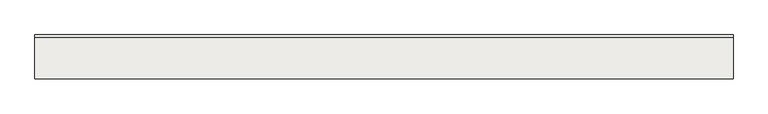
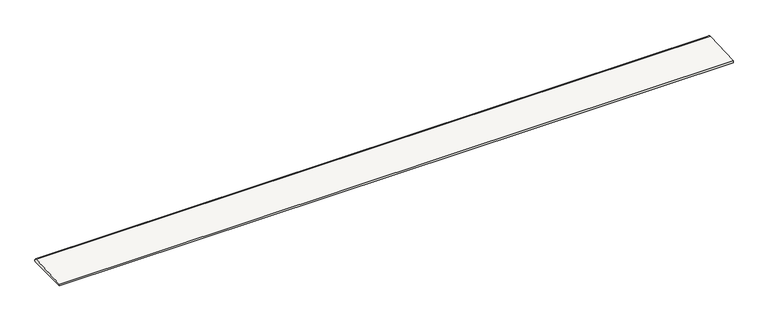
"""IFC4 building model written with IfcOpenShell, lengths in millimetres: slab geometry, ROSA GRES_S62 : Pieza S62_Serena_Griggio_Anti-Slip."""

import ifcopenshell
import ifcopenshell.guid

model = None  # the IFC model being written
_history = None  # IfcOwnerHistory: only IFC2X3 demands one
_inside = {}  # id of a spatial element -> (the spatial element, [elements in it])
_under = {}  # id of a project, library or spatial element -> (it, [spatial elements below it])
_declared = {}  # id of a project -> (the project, [libraries it declares])
_typed = {}  # id of a type object -> (the type object, [elements of that type])
_made_of = {}  # id of a material, layer set ... -> (it, [elements and type objects made of it])


def new_model(schema):
    """Start an empty IFC model of exactly this schema.

    Asked for "IFC4X3", IfcOpenShell would pick the latest addendum, in which some entities
    have other attributes; the version numbers below select the first issue.
    IFC2X3 requires an IfcOwnerHistory on every rooted entity: one is made here for all.
    """
    global model, _history
    if schema == "IFC4X3":
        model = ifcopenshell.file(schema_version=(4, 3, 0, 0))
    else:
        model = ifcopenshell.file(schema=schema)
    _inside.clear()
    _under.clear()
    _declared.clear()
    _typed.clear()
    _made_of.clear()
    _history = None
    if model.schema == "IFC2X3":
        org = make("IfcOrganization", Name="unknown")
        user = make(
            "IfcPersonAndOrganization",
            ThePerson=make("IfcPerson", FamilyName="unknown"),
            TheOrganization=org,
        )
        app = make(
            "IfcApplication",
            ApplicationDeveloper=org,
            Version="unknown",
            ApplicationFullName="unknown",
            ApplicationIdentifier="unknown",
        )
        _history = make(
            "IfcOwnerHistory",
            OwningUser=user,
            OwningApplication=app,
            ChangeAction="ADDED",
            CreationDate=0,
        )
    return model


def make(cls, **values):
    """One entity of the class cls with the attributes given. An attribute that is None is left unset."""
    return model.create_entity(
        cls, **{name: value for name, value in values.items() if value is not None}
    )


def rooted(cls, **values):
    """An entity with a GlobalId (a new one), such as an element, a storey or a relation."""
    return make(cls, GlobalId=ifcopenshell.guid.new(), OwnerHistory=_history, **values)


def si_unit(unit_type, name, prefix=None):
    """IfcSIUnit, for example si_unit("LENGTHUNIT", "METRE", prefix="MILLI")."""
    return make("IfcSIUnit", UnitType=unit_type, Prefix=prefix, Name=name)


def assignment(units):
    """IfcUnitAssignment: the units of a project."""
    return None if units is None else make("IfcUnitAssignment", Units=units)


def point(xyz):
    """IfcCartesianPoint."""
    return None if xyz is None else make("IfcCartesianPoint", Coordinates=xyz)


def direction(xyz):
    """IfcDirection."""
    return None if xyz is None else make("IfcDirection", DirectionRatios=xyz)


def frame(location, z_axis=None, x_axis=None):
    """IfcAxis2Placement3D, a coordinate frame: its origin and axes. An axis left out is left unset."""
    return make(
        "IfcAxis2Placement3D",
        Location=point(location),
        Axis=direction(z_axis),
        RefDirection=direction(x_axis),
    )


def frame_2d(location, x_axis=None):
    """IfcAxis2Placement2D, a coordinate frame in the plane: its origin and x axis."""
    return make(
        "IfcAxis2Placement2D", Location=point(location), RefDirection=direction(x_axis)
    )


def origin():
    """The frame at (0, 0, 0) with its axes left unset."""
    return frame((0.0, 0.0, 0.0))


def place(relative_to, where):
    """IfcLocalPlacement: puts the frame where relative to a parent placement (None: the world)."""
    return make(
        "IfcLocalPlacement", PlacementRelTo=relative_to, RelativePlacement=where
    )


def context(
    kind, dimensions, precision=None, world=None, true_north=None, identifier=None
):
    """IfcGeometricRepresentationContext, for example the 3D "Model" context."""
    return make(
        "IfcGeometricRepresentationContext",
        ContextIdentifier=identifier,
        ContextType=kind,
        CoordinateSpaceDimension=dimensions,
        Precision=precision,
        WorldCoordinateSystem=world,
        TrueNorth=true_north,
    )


def project(units=None, contexts=None):
    """IfcProject with its units and contexts."""
    return rooted(
        "IfcProject",
        Name="project",
        RepresentationContexts=contexts,
        UnitsInContext=assignment(units),
    )


def spatial(cls, under=None, at=None, **own):
    """A site, building, storey or space (cls), placed at a placement, below another one or the project."""
    s = rooted(cls, ObjectPlacement=at, **own)
    if under is not None:
        _under.setdefault(under.id(), (under, []))[1].append(s)
    return s


def polyline(points):
    """IfcPolyline through the points."""
    return make("IfcPolyline", Points=[point(p) for p in points])


def circle_curve(where, radius):
    """IfcCircle in the frame where."""
    return make("IfcCircle", Position=where, Radius=radius)


def trimmed(basis, trim1, trim2, sense, master):
    """IfcTrimmedCurve: the piece of a basis curve between two trims."""
    return make(
        "IfcTrimmedCurve",
        BasisCurve=basis,
        Trim1=trim1,
        Trim2=trim2,
        SenseAgreement=sense,
        MasterRepresentation=master,
    )


def segment(curve, same_sense, transition):
    """IfcCompositeCurveSegment."""
    return make(
        "IfcCompositeCurveSegment",
        Transition=transition,
        SameSense=same_sense,
        ParentCurve=curve,
    )


def composite_curve(segments, self_intersect=None):
    """IfcCompositeCurve: segments joined end to end."""
    return make("IfcCompositeCurve", Segments=segments, SelfIntersect=self_intersect)


def outline(outer, holes=None, kind="AREA"):
    """IfcArbitraryClosedProfileDef: a profile drawn as a closed curve; with holes, ...WithVoids."""
    if holes is None:
        return make("IfcArbitraryClosedProfileDef", ProfileType=kind, OuterCurve=outer)
    return make(
        "IfcArbitraryProfileDefWithVoids",
        ProfileType=kind,
        OuterCurve=outer,
        InnerCurves=holes,
    )


def extrude(swept, where, along, depth):
    """IfcExtrudedAreaSolid: the profile swept, set in the frame where, extruded along a direction by depth."""
    return make(
        "IfcExtrudedAreaSolid",
        SweptArea=swept,
        Position=where,
        ExtrudedDirection=direction(along),
        Depth=depth,
    )


def shape(context_of_items, identifier, shape_type, items):
    """IfcShapeRepresentation: the items that make up one representation, for example the "Body"."""
    return make(
        "IfcShapeRepresentation",
        ContextOfItems=context_of_items,
        RepresentationIdentifier=identifier,
        RepresentationType=shape_type,
        Items=items,
    )


def source(mapping_origin, context_of_items, identifier, shape_type, items):
    """IfcRepresentationMap: a shape defined once, which mapped items show again and again."""
    return make(
        "IfcRepresentationMap",
        MappingOrigin=mapping_origin,
        MappedRepresentation=shape(context_of_items, identifier, shape_type, items),
    )


def transform(
    local_origin,
    x_axis=None,
    y_axis=None,
    z_axis=None,
    scale=None,
    scale2=None,
    scale3=None,
    uniform=True,
):
    """IfcCartesianTransformationOperator3D, or its non-uniform kind. x_axis, y_axis, z_axis: its Axis1, 2, 3."""
    if uniform:
        return make(
            "IfcCartesianTransformationOperator3D",
            Axis1=direction(x_axis),
            Axis2=direction(y_axis),
            LocalOrigin=point(local_origin),
            Scale=scale,
            Axis3=direction(z_axis),
        )
    return make(
        "IfcCartesianTransformationOperator3DnonUniform",
        Axis1=direction(x_axis),
        Axis2=direction(y_axis),
        LocalOrigin=point(local_origin),
        Scale=scale,
        Axis3=direction(z_axis),
        Scale2=scale2,
        Scale3=scale3,
    )


def mapped(mapping_source, mapping_target):
    """IfcMappedItem: shows the shape of a source again, moved by a transform."""
    return make(
        "IfcMappedItem", MappingSource=mapping_source, MappingTarget=mapping_target
    )


def made_of(thing, what):
    """Note that an element or type object is made of a material, layer set ...; save() writes the relation."""
    if what is not None:
        _made_of.setdefault(what.id(), (what, []))[1].append(thing)
    return thing


def element(
    cls,
    number,
    at=None,
    inside=None,
    cuts=None,
    type_object=None,
    material=None,
    context=None,
    identifier="Body",
    shape_type=None,
    held_by="IfcProductDefinitionShape",
    body=None,
    shapes=None,
    **own,
):
    """One element of the class cls, such as IfcWall. Its Tag is "e" and its number.

    at: its placement. inside: the storey or other place that contains it. cuts: it is an
    opening in that element (IfcRelVoidsElement). A single representation is given by context,
    identifier, shape_type and body (its items); several are given by shapes. held_by: the class
    of the entity that holds the representations. save() writes the other relations.
    """
    e = rooted(cls, Tag="e%d" % number, ObjectPlacement=at, **own)
    if body is not None:
        shapes = [shape(context, identifier, shape_type, body)]
    if shapes is not None:
        e.Representation = make(held_by, Representations=shapes)
    if inside is not None:
        _inside.setdefault(inside.id(), (inside, []))[1].append(e)
    if cuts is not None:
        rooted(
            "IfcRelVoidsElement", RelatingBuildingElement=cuts, RelatedOpeningElement=e
        )
    if type_object is not None:
        _typed.setdefault(type_object.id(), (type_object, []))[1].append(e)
    return made_of(e, material)


def aggregate(whole, parts):
    """IfcRelAggregates: a whole, such as a stair, and the parts it consists of."""
    return rooted("IfcRelAggregates", RelatingObject=whole, RelatedObjects=parts)


def save(model, path):
    """Write the relations noted so far, then the file.

    IfcRelAggregates (storeys below a building ...), IfcRelContainedInSpatialStructure (elements
    in a storey), IfcRelDefinesByType, IfcRelAssociatesMaterial and IfcRelDeclares: one each for
    every whole, place, type object, material and project.
    """
    for whole, parts in _under.values():
        aggregate(whole, parts)
    for where, things in _inside.values():
        rooted(
            "IfcRelContainedInSpatialStructure",
            RelatedElements=things,
            RelatingStructure=where,
        )
    for kind, things in _typed.values():
        rooted("IfcRelDefinesByType", RelatedObjects=things, RelatingType=kind)
    for what, things in _made_of.values():
        rooted("IfcRelAssociatesMaterial", RelatedObjects=things, RelatingMaterial=what)
    for by, libraries in _declared.values():
        rooted("IfcRelDeclares", RelatingContext=by, RelatedDefinitions=libraries)
    model.write(path)


def slab_283fe7c2(model_context):
    return source(origin(), model_context, "Body", "SweptSolid", [
        extrude(outline(composite_curve([segment(trimmed(circle_curve(frame_2d((-13.9724374, 9.2919904)), 16.7800504), [point((-14.738484, 26.0545458))], [point((0.0, 0.0))], False, "CARTESIAN"), True, "CONTINUOUS"), segment(polyline([(0.0, 0.0), (-306.6389713, 0.0), (-306.6389713, 12.0), (-14.738484, 26.0545458)]), True, "CONTINUOUS")], self_intersect=False)), frame((0.0, 0.0, 0.0), z_axis=(1.0, 0.0, 0.0), x_axis=(0.0, 1.0, 0.0)), (0.0, 0.0, 1.0), 4935.4378328),
    ])


if __name__ == "__main__":
    model = new_model("IFC4")
    model_context = context("Model", 3, world=origin())
    ifc_project = project(units=[si_unit("LENGTHUNIT", "METRE", prefix="MILLI")], contexts=[model_context])
    site = spatial("IfcSite", under=ifc_project)
    building = spatial("IfcBuilding", under=site)
    placement = place(None, origin())
    slab_shape = slab_283fe7c2(model_context)
    element("IfcSlab", 1, ObjectType="ROSA GRES_S62 : Pieza S62_Serena_Griggio_Anti-Slip", at=placement, inside=building, context=model_context, shape_type="MappedRepresentation", body=[
        mapped(slab_shape, transform((0.0, 0.0, 0.0), x_axis=(1.0, 0.0, 0.0), y_axis=(0.0, 1.0, 0.0), z_axis=(0.0, 0.0, 1.0))),
    ])
    save(model, "model.ifc")
